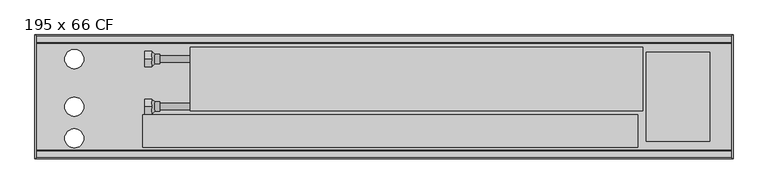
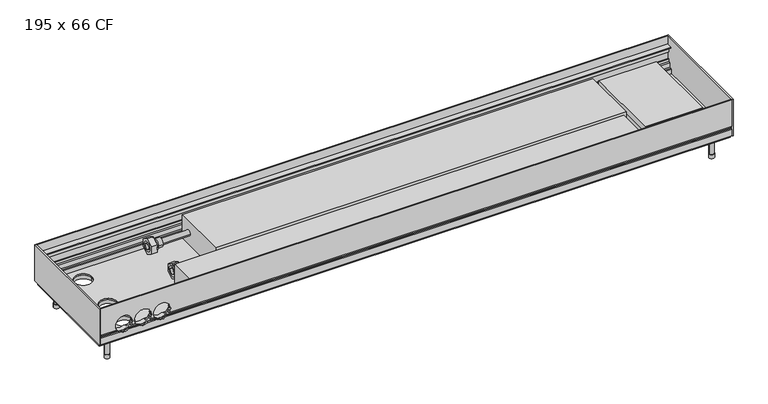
"""IFC4 building model written with IfcOpenShell, lengths in millimetres: proxy geometry, Mohlenhof_Внутрипольный конвектор_QSKM CF : 195 x 66 CF."""

from ifc_helpers import new_model, si_unit, point, frame, frame_2d, origin, place, context, project, spatial, polyline, circle_curve, ellipse_curve, trimmed, segment, composite_curve, outline, extrude, source, transform, mapped, element, save
from ifc_brep_helpers import plane_surface, cylinder_surface, revolved_surface, advanced_brep


def proxy_195_x_66_cf_8ee333b8(model_context):
    return source(origin(), model_context, "Body", "SolidModel", [
        advanced_brep(
        [(-366.0, -213.0, -41.0), (-366.0, -201.0, -41.0), (-366.0, -225.0, -41.0), (-353.5, -220.5, -41.0), (-353.5, -205.5, -41.0), (-353.5, -213.0, -41.0), (-361.0, -220.5, -41.0), (-361.0, -205.5, -41.0)],
        [
            (0, 1),
            (1, 2, circle_curve(frame((-366.0, -213.0, -41.0), z_axis=(-1.0, 0.0, 0.0), x_axis=(0.0, 1.0, 0.0)), 12.0)),
            (2, 0),
            (2, 1, circle_curve(frame((-366.0, -213.0, -41.0), z_axis=(-1.0, 0.0, 0.0), x_axis=(0.0, 1.0, 0.0)), 12.0)),
            (3, 4, circle_curve(frame((-353.5, -213.0, -41.0), z_axis=(1.0, 0.0, 0.0), x_axis=(0.0, 1.0, 0.0)), 7.5)),
            (4, 5),
            (5, 3),
            (4, 3, circle_curve(frame((-353.5, -213.0, -41.0), z_axis=(1.0, 0.0, 0.0), x_axis=(0.0, 1.0, 0.0)), 7.5)),
            (6, 7, circle_curve(frame((-361.0, -213.0, -41.0), z_axis=(1.0, 0.0, 0.0), x_axis=(0.0, 1.0, 0.0)), 7.5)),
            (7, 4),
            (3, 6),
            (7, 6, circle_curve(frame((-361.0, -213.0, -41.0), z_axis=(1.0, 0.0, 0.0), x_axis=(0.0, 1.0, 0.0)), 7.5)),
            (1, 7),
            (6, 2),
        ],
        [
            plane_surface(frame((-366.0, -213.0, -41.0), z_axis=(-1.0, 0.0, 0.0), x_axis=(0.0, 1.0, 0.0))),
            plane_surface(frame((-353.5, -213.0, -41.0), z_axis=(1.0, 0.0, 0.0), x_axis=(0.0, 1.0, 0.0))),
            cylinder_surface(frame((-366.0, -213.0, -41.0), z_axis=(-1.0, 0.0, 0.0), x_axis=(0.0, 1.0, 0.0)), 7.5),
            revolved_surface(polyline([(-361.0, -205.5, -41.0), (-366.0, -201.0, -41.0)]), (-366.0, -213.0, -41.0), (-1.0, 0.0, 0.0)),
        ],
        [
            (0, [[1, 2, 3]]),
            (0, [[-3, 4, -1]]),
            (1, [[5, 6, 7]]),
            (1, [[8, -7, -6]]),
            (2, [[9, 10, -5, 11]]),
            (2, [[12, -11, -8, -10]]),
            (3, [[-2, 13, -9, 14]]),
            (3, [[-4, -14, -12, -13]]),
        ],
    ),
        extrude(outline(polyline([(-213.0, -27.1435935), (-201.0, -34.0717968), (-201.0, -47.9282032), (-213.0, -54.8564065), (-225.0, -47.9282032), (-225.0, -34.0717968), (-213.0, -27.1435935)]), holes=[composite_curve([segment(trimmed(circle_curve(frame_2d((-213.0, -41.0)), 8.5), [point((-204.5, -41.0))], [point((-221.5, -41.0))], True, "CARTESIAN"), True, "CONTINUOUS"), segment(trimmed(circle_curve(frame_2d((-213.0, -41.0)), 8.5), [point((-221.5, -41.0))], [point((-204.5, -41.0))], True, "CARTESIAN"), True, "CONTINUOUS")], self_intersect=False)]), frame((-377.0, 0.0, 0.0), z_axis=(1.0, 0.0, 0.0), x_axis=(0.0, 1.0, 0.0)), (0.0, 0.0, 1.0), 11.0),
        advanced_brep(
        [(-366.0, -138.0, -41.0), (-366.0, -126.0, -41.0), (-366.0, -150.0, -41.0), (-353.5, -145.5, -41.0), (-353.5, -130.5, -41.0), (-353.5, -138.0, -41.0), (-361.0, -145.5, -41.0), (-361.0, -130.5, -41.0)],
        [
            (0, 1),
            (1, 2, circle_curve(frame((-366.0, -138.0, -41.0), z_axis=(-1.0, 0.0, 0.0), x_axis=(0.0, 1.0, 0.0)), 12.0)),
            (2, 0),
            (2, 1, circle_curve(frame((-366.0, -138.0, -41.0), z_axis=(-1.0, 0.0, 0.0), x_axis=(0.0, 1.0, 0.0)), 12.0)),
            (3, 4, circle_curve(frame((-353.5, -138.0, -41.0), z_axis=(1.0, 0.0, 0.0), x_axis=(0.0, 1.0, 0.0)), 7.5)),
            (4, 5),
            (5, 3),
            (4, 3, circle_curve(frame((-353.5, -138.0, -41.0), z_axis=(1.0, 0.0, 0.0), x_axis=(0.0, 1.0, 0.0)), 7.5)),
            (6, 7, circle_curve(frame((-361.0, -138.0, -41.0), z_axis=(1.0, 0.0, 0.0), x_axis=(0.0, 1.0, 0.0)), 7.5)),
            (7, 4),
            (3, 6),
            (7, 6, circle_curve(frame((-361.0, -138.0, -41.0), z_axis=(1.0, 0.0, 0.0), x_axis=(0.0, 1.0, 0.0)), 7.5)),
            (1, 7),
            (6, 2),
        ],
        [
            plane_surface(frame((-366.0, -138.0, -41.0), z_axis=(-1.0, 0.0, 0.0), x_axis=(0.0, 1.0, 0.0))),
            plane_surface(frame((-353.5, -138.0, -41.0), z_axis=(1.0, 0.0, 0.0), x_axis=(0.0, 1.0, 0.0))),
            cylinder_surface(frame((-366.0, -138.0, -41.0), z_axis=(-1.0, 0.0, 0.0), x_axis=(0.0, 1.0, 0.0)), 7.5),
            revolved_surface(polyline([(-361.0, -130.5, -41.0), (-366.0, -126.0, -41.0)]), (-366.0, -138.0, -41.0), (-1.0, 0.0, 0.0)),
        ],
        [
            (0, [[1, 2, 3]]),
            (0, [[-3, 4, -1]]),
            (1, [[5, 6, 7]]),
            (1, [[8, -7, -6]]),
            (2, [[9, 10, -5, 11]]),
            (2, [[12, -11, -8, -10]]),
            (3, [[-2, 13, -9, 14]]),
            (3, [[-4, -14, -12, -13]]),
        ],
    ),
        extrude(outline(polyline([(-138.0, -27.1435935), (-126.0, -34.0717968), (-126.0, -47.9282032), (-138.0, -54.8564065), (-150.0, -47.9282032), (-150.0, -34.0717968), (-138.0, -27.1435935)]), holes=[composite_curve([segment(trimmed(circle_curve(frame_2d((-138.0, -41.0)), 8.5), [point((-129.5, -41.0))], [point((-146.5, -41.0))], True, "CARTESIAN"), True, "CONTINUOUS"), segment(trimmed(circle_curve(frame_2d((-138.0, -41.0)), 8.5), [point((-146.5, -41.0))], [point((-129.5, -41.0))], True, "CARTESIAN"), True, "CONTINUOUS")], self_intersect=False)]), frame((-377.0, 0.0, 0.0), z_axis=(1.0, 0.0, 0.0), x_axis=(0.0, 1.0, 0.0)), (0.0, 0.0, 1.0), 11.0),
        extrude(outline(composite_curve([segment(trimmed(circle_curve(frame_2d((-525.0, -273.5)), 4.5), [point((-529.5, -273.5))], [point((-520.5, -273.5))], False, "CARTESIAN"), True, "CONTINUOUS"), segment(trimmed(circle_curve(frame_2d((-525.0, -273.5)), 4.5), [point((-520.5, -273.5))], [point((-529.5, -273.5))], False, "CARTESIAN"), True, "CONTINUOUS")], self_intersect=False)), frame((0.0, 0.0, -110.0), z_axis=(0.0, 0.0, 1.0), x_axis=(1.0, 0.0, 0.0)), (0.0, 0.0, 1.0), 7.0),
        extrude(outline(composite_curve([segment(trimmed(circle_curve(frame_2d((-525.0, -273.5)), 4.0), [point((-529.0, -273.5))], [point((-521.0, -273.5))], False, "CARTESIAN"), True, "CONTINUOUS"), segment(trimmed(circle_curve(frame_2d((-525.0, -273.5)), 4.0), [point((-521.0, -273.5))], [point((-529.0, -273.5))], False, "CARTESIAN"), True, "CONTINUOUS")], self_intersect=False)), frame((0.0, 0.0, -103.0), z_axis=(0.0, 0.0, 1.0), x_axis=(1.0, 0.0, 0.0)), (0.0, 0.0, 1.0), 32.5),
        extrude(outline(composite_curve([segment(trimmed(circle_curve(frame_2d((-525.0, -121.5)), 4.5), [point((-529.5, -121.5))], [point((-520.5, -121.5))], False, "CARTESIAN"), True, "CONTINUOUS"), segment(trimmed(circle_curve(frame_2d((-525.0, -121.5)), 4.5), [point((-520.5, -121.5))], [point((-529.5, -121.5))], False, "CARTESIAN"), True, "CONTINUOUS")], self_intersect=False)), frame((0.0, 0.0, -110.0), z_axis=(0.0, 0.0, 1.0), x_axis=(1.0, 0.0, 0.0)), (0.0, 0.0, 1.0), 7.0),
        extrude(outline(composite_curve([segment(trimmed(circle_curve(frame_2d((-525.0, -121.5)), 4.0), [point((-529.0, -121.5))], [point((-521.0, -121.5))], False, "CARTESIAN"), True, "CONTINUOUS"), segment(trimmed(circle_curve(frame_2d((-525.0, -121.5)), 4.0), [point((-521.0, -121.5))], [point((-529.0, -121.5))], False, "CARTESIAN"), True, "CONTINUOUS")], self_intersect=False)), frame((0.0, 0.0, -103.0), z_axis=(0.0, 0.0, 1.0), x_axis=(1.0, 0.0, 0.0)), (0.0, 0.0, 1.0), 32.5),
        extrude(outline(composite_curve([segment(trimmed(circle_curve(frame_2d((525.0, -273.5)), 4.5), [point((520.5, -273.5))], [point((529.5, -273.5))], False, "CARTESIAN"), True, "CONTINUOUS"), segment(trimmed(circle_curve(frame_2d((525.0, -273.5)), 4.5), [point((529.5, -273.5))], [point((520.5, -273.5))], False, "CARTESIAN"), True, "CONTINUOUS")], self_intersect=False)), frame((0.0, 0.0, -110.0), z_axis=(0.0, 0.0, 1.0), x_axis=(1.0, 0.0, 0.0)), (0.0, 0.0, 1.0), 7.0),
        extrude(outline(composite_curve([segment(trimmed(circle_curve(frame_2d((525.0, -273.5)), 4.0), [point((521.0, -273.5))], [point((529.0, -273.5))], False, "CARTESIAN"), True, "CONTINUOUS"), segment(trimmed(circle_curve(frame_2d((525.0, -273.5)), 4.0), [point((529.0, -273.5))], [point((521.0, -273.5))], False, "CARTESIAN"), True, "CONTINUOUS")], self_intersect=False)), frame((0.0, 0.0, -103.0), z_axis=(0.0, 0.0, 1.0), x_axis=(1.0, 0.0, 0.0)), (0.0, 0.0, 1.0), 32.5),
        extrude(outline(composite_curve([segment(trimmed(circle_curve(frame_2d((525.0, -121.5)), 4.5), [point((520.5, -121.5))], [point((529.5, -121.5))], False, "CARTESIAN"), True, "CONTINUOUS"), segment(trimmed(circle_curve(frame_2d((525.0, -121.5)), 4.5), [point((529.5, -121.5))], [point((520.5, -121.5))], False, "CARTESIAN"), True, "CONTINUOUS")], self_intersect=False)), frame((0.0, 0.0, -110.0), z_axis=(0.0, 0.0, 1.0), x_axis=(1.0, 0.0, 0.0)), (0.0, 0.0, 1.0), 7.0),
        extrude(outline(composite_curve([segment(trimmed(circle_curve(frame_2d((525.0, -121.5)), 4.0), [point((521.0, -121.5))], [point((529.0, -121.5))], False, "CARTESIAN"), True, "CONTINUOUS"), segment(trimmed(circle_curve(frame_2d((525.0, -121.5)), 4.0), [point((529.0, -121.5))], [point((521.0, -121.5))], False, "CARTESIAN"), True, "CONTINUOUS")], self_intersect=False)), frame((0.0, 0.0, -103.0), z_axis=(0.0, 0.0, 1.0), x_axis=(1.0, 0.0, 0.0)), (0.0, 0.0, 1.0), 32.5),
        extrude(outline(polyline([(-62.5, 501.0), (-44.5, 501.0), (-44.5, 510.0), (-29.5, 510.0), (-29.5, 513.0), (-19.5, 513.0), (-19.5, 413.0), (-29.5, 413.0), (-29.5, 416.0), (-62.5, 416.0), (-62.5, 501.0)])), frame((0.0, -267.5, 0.0), z_axis=(0.0, 1.0, 0.0), x_axis=(0.0, 0.0, 1.0)), (0.0, 0.0, 1.0), 140.0),
        extrude(outline(polyline([(400.0, -225.87), (400.0, -277.18), (-380.0, -277.18), (-380.0, -225.87), (400.0, -225.87)])), frame((0.0, 0.0, -62.5), z_axis=(0.0, 0.0, 1.0), x_axis=(1.0, 0.0, 0.0)), (0.0, 0.0, 1.0), 43.62),
        extrude(outline(composite_curve([segment(trimmed(circle_curve(frame_2d((-213.0, -41.0)), 5.0), [point((-218.0, -41.0))], [point((-208.0, -41.0))], False, "CARTESIAN"), True, "CONTINUOUS"), segment(trimmed(circle_curve(frame_2d((-213.0, -41.0)), 5.0), [point((-208.0, -41.0))], [point((-218.0, -41.0))], False, "CARTESIAN"), True, "CONTINUOUS")], self_intersect=False)), frame((-377.0, 0.0, 0.0), z_axis=(1.0, 0.0, 0.0), x_axis=(0.0, 1.0, 0.0)), (0.0, 0.0, 1.0), 72.0),
        extrude(outline(composite_curve([segment(trimmed(circle_curve(frame_2d((-138.0, -41.0)), 5.0), [point((-143.0, -41.0))], [point((-133.0, -41.0))], False, "CARTESIAN"), True, "CONTINUOUS"), segment(trimmed(circle_curve(frame_2d((-138.0, -41.0)), 5.0), [point((-133.0, -41.0))], [point((-143.0, -41.0))], False, "CARTESIAN"), True, "CONTINUOUS")], self_intersect=False)), frame((-377.0, 0.0, 0.0), z_axis=(1.0, 0.0, 0.0), x_axis=(0.0, 1.0, 0.0)), (0.0, 0.0, 1.0), 72.0),
        advanced_brep(
        [(548.0, -295.0, -48.5473602), (548.0, -293.5, -49.2468216), (548.0, -292.5, -49.2468216), (548.0, -292.5, -46.0008038), (548.0, -290.0, -46.0008038), (548.0, -290.0, -56.5008038), (548.0, -292.5, -56.5008038), (548.0, -292.5, -53.2468216), (548.0, -293.5, -53.2468216), (548.0, -295.0, -53.9462831), (548.0, -295.0, -66.5), (548.0, -291.0, -66.5), (548.0, -291.0, -65.2), (548.0, -293.0, -65.2), (548.0, -293.0, -62.5), (548.0, -282.0, -62.5), (548.0, -282.0, -54.9172677), (548.0, -283.4172677, -53.5), (548.0, -287.0, -53.5), (548.0, -287.0, -45.91), (548.0, -289.0, -43.91), (548.0, -289.0, -39.5), (548.0, -290.0, -39.5), (548.0, -290.0, -43.5), (548.0, -292.4956439, -43.5), (548.0, -292.4956439, -23.0), (548.0, -290.0, -23.0), (548.0, -290.0, -27.0), (548.0, -289.0, -27.0), (548.0, -289.0, -17.0), (548.0, -283.3956439, -17.0), (548.0, -283.3956439, -15.0), (548.0, -293.4, -15.0), (548.0, -293.4, 0.0), (548.0, -295.0, 0.0), (-548.0, -295.0, -48.5473602), (-548.0, -295.0, 0.0), (-548.0, -293.4, 0.0), (-548.0, -293.4, -15.0), (-548.0, -283.3956439, -15.0), (-548.0, -283.3956439, -17.0), (-548.0, -289.0, -17.0), (-548.0, -289.0, -27.0), (-548.0, -290.0, -27.0), (-548.0, -290.0, -23.0), (-548.0, -292.4956439, -23.0), (-548.0, -292.4956439, -43.5), (-548.0, -290.0, -43.5), (-548.0, -290.0, -39.5), (-548.0, -289.0, -39.5), (-548.0, -289.0, -43.91), (-548.0, -287.0, -45.91), (-548.0, -287.0, -53.5), (-548.0, -283.4172677, -53.5), (-548.0, -282.0, -54.9172677), (-548.0, -282.0, -62.5), (-548.0, -293.0, -62.5), (-548.0, -293.0, -65.2), (-548.0, -291.0, -65.2), (-548.0, -291.0, -66.5), (-548.0, -295.0, -66.5), (-548.0, -295.0, -53.9462831), (-548.0, -293.5, -53.2468216), (-548.0, -292.5, -53.2468216), (-548.0, -292.5, -56.5008038), (-548.0, -290.0, -56.5008038), (-548.0, -290.0, -46.0008038), (-548.0, -292.5, -46.0008038), (-548.0, -292.5, -49.2468216), (-548.0, -293.5, -49.2468216), (-428.7585985, -295.0, -48.5473602), (-429.155283, -293.5, -49.2468216), (-520.844717, -293.5, -49.2468216), (-521.2414015, -295.0, -48.5473602), (-488.2414015, -295.0, -48.5473602), (-494.7585985, -295.0, -48.5473602), (-495.155283, -293.5, -49.2468216), (-487.844717, -293.5, -49.2468216), (-455.2414015, -295.0, -48.5473602), (-461.7585985, -295.0, -48.5473602), (-462.155283, -293.5, -49.2468216), (-454.844717, -293.5, -49.2468216), (-429.155283, -292.5, -49.2468216), (-520.844717, -292.5, -49.2468216), (-495.155283, -292.5, -49.2468216), (-487.844717, -292.5, -49.2468216), (-462.155283, -292.5, -49.2468216), (-454.844717, -292.5, -49.2468216), (-427.6911648, -292.5, -46.0008038), (-522.3088352, -292.5, -46.0008038), (-493.6911648, -292.5, -46.0008038), (-489.3088352, -292.5, -46.0008038), (-460.6911648, -292.5, -46.0008038), (-456.3088352, -292.5, -46.0008038), (-427.6911648, -290.0, -46.0008038), (-522.3088352, -290.0, -46.0008038), (-493.6911648, -290.0, -46.0008038), (-489.3088352, -290.0, -46.0008038), (-460.6911648, -290.0, -46.0008038), (-456.3088352, -290.0, -46.0008038), (-517.328032, -292.5, -53.2468216), (-498.671968, -292.5, -53.2468216), (-484.328032, -292.5, -53.2468216), (-465.671968, -292.5, -53.2468216), (-451.328032, -292.5, -53.2468216), (-432.671968, -292.5, -53.2468216), (-432.671968, -293.5, -53.2468216), (-517.328032, -293.5, -53.2468216), (-498.671968, -293.5, -53.2468216), (-484.328032, -293.5, -53.2468216), (-465.671968, -293.5, -53.2468216), (-451.328032, -293.5, -53.2468216), (-433.6280208, -295.0, -53.9462831), (-516.3719792, -295.0, -53.9462831), (-499.6280208, -295.0, -53.9462831), (-483.3719792, -295.0, -53.9462831), (-466.6280208, -295.0, -53.9462831), (-450.3719792, -295.0, -53.9462831), (-514.7064841, -282.0, -54.9172677), (-501.2935159, -282.0, -54.9172677), (-481.7064841, -282.0, -54.9172677), (-468.2935159, -282.0, -54.9172677), (-448.7064841, -282.0, -54.9172677), (-435.2935159, -282.0, -54.9172677), (-433.0, -283.4172677, -53.5), (-517.0, -283.4172677, -53.5), (-499.0, -283.4172677, -53.5), (-484.0, -283.4172677, -53.5), (-466.0, -283.4172677, -53.5), (-451.0, -283.4172677, -53.5), (-433.0, -287.0, -53.5), (-517.0, -287.0, -53.5), (-499.0, -287.0, -53.5), (-484.0, -287.0, -53.5), (-466.0, -287.0, -53.5), (-451.0, -287.0, -53.5), (-427.6629187, -287.0, -45.91), (-522.3370813, -287.0, -45.91), (-493.6629187, -287.0, -45.91), (-489.3370813, -287.0, -45.91), (-460.6629187, -287.0, -45.91), (-456.3370813, -287.0, -45.91), (-427.1948691, -289.0, -43.91), (-522.8051309, -289.0, -43.91), (-493.1948691, -289.0, -43.91), (-489.8051309, -289.0, -43.91), (-460.1948691, -289.0, -43.91), (-456.8051309, -289.0, -43.91), (-427.0, -289.0, -41.5), (-427.1339313, -289.0, -39.5), (-522.8660687, -289.0, -39.5), (-523.0, -289.0, -41.5), (-493.0, -289.0, -41.5), (-493.1339313, -289.0, -39.5), (-489.8660687, -289.0, -39.5), (-490.0, -289.0, -41.5), (-460.0, -289.0, -41.5), (-460.1339313, -289.0, -39.5), (-456.8660687, -289.0, -39.5), (-457.0, -289.0, -41.5), (-427.1339313, -290.0, -39.5), (-522.8660687, -290.0, -39.5), (-493.1339313, -290.0, -39.5), (-489.8660687, -290.0, -39.5), (-460.1339313, -290.0, -39.5), (-456.8660687, -290.0, -39.5), (-427.0, -290.0, -41.5), (-427.1339313, -290.0, -43.5), (-522.8660687, -290.0, -43.5), (-523.0, -290.0, -41.5), (-493.0, -290.0, -41.5), (-493.1339313, -290.0, -43.5), (-489.8660687, -290.0, -43.5), (-490.0, -290.0, -41.5), (-460.0, -290.0, -41.5), (-460.1339313, -290.0, -43.5), (-456.8660687, -290.0, -43.5), (-457.0, -290.0, -41.5), (-427.1339313, -292.4956439, -43.5), (-522.8660687, -292.4956439, -43.5), (-493.1339313, -292.4956439, -43.5), (-489.8660687, -292.4956439, -43.5), (-460.1339313, -292.4956439, -43.5), (-456.8660687, -292.4956439, -43.5), (-427.0, -292.4956439, -41.5), (-457.0, -292.4956439, -41.5), (-460.0, -292.4956439, -41.5), (-490.0, -292.4956439, -41.5), (-493.0, -292.4956439, -41.5), (-523.0, -292.4956439, -41.5), (-511.8405729, -290.0, -27.0), (-504.1594271, -290.0, -27.0), (-478.8405729, -290.0, -27.0), (-471.1594271, -290.0, -27.0), (-445.8405729, -290.0, -27.0), (-438.1594271, -290.0, -27.0), (-438.1594271, -289.0, -27.0), (-511.8405729, -289.0, -27.0), (-504.1594271, -289.0, -27.0), (-478.8405729, -289.0, -27.0), (-471.1594271, -289.0, -27.0), (-445.8405729, -289.0, -27.0), (-523.0, -295.0, -41.5), (-493.0, -295.0, -41.5), (-490.0, -295.0, -41.5), (-460.0, -295.0, -41.5), (-457.0, -295.0, -41.5), (-427.0, -295.0, -41.5)],
        [
            (0, 1),
            (1, 2),
            (2, 3),
            (3, 4),
            (4, 5),
            (5, 6),
            (6, 7),
            (7, 8),
            (8, 9),
            (9, 10),
            (10, 11),
            (11, 12),
            (12, 13),
            (13, 14),
            (14, 15),
            (15, 16),
            (16, 17),
            (17, 18),
            (18, 19),
            (19, 20),
            (20, 21),
            (21, 22),
            (22, 23),
            (23, 24),
            (24, 25),
            (25, 26),
            (26, 27),
            (27, 28),
            (28, 29),
            (29, 30),
            (30, 31),
            (31, 32),
            (32, 33),
            (33, 34),
            (34, 0),
            (35, 36),
            (36, 37),
            (37, 38),
            (38, 39),
            (39, 40),
            (40, 41),
            (41, 42),
            (42, 43),
            (43, 44),
            (44, 45),
            (45, 46),
            (46, 47),
            (47, 48),
            (48, 49),
            (49, 50),
            (50, 51),
            (51, 52),
            (52, 53),
            (53, 54),
            (54, 55),
            (55, 56),
            (56, 57),
            (57, 58),
            (58, 59),
            (59, 60),
            (60, 61),
            (61, 62),
            (62, 63),
            (63, 64),
            (64, 65),
            (65, 66),
            (66, 67),
            (67, 68),
            (68, 69),
            (69, 35),
            (0, 70),
            (70, 71, ellipse_curve(frame((-442.0, -310.1131126, -41.5), z_axis=(0.0, 0.42261826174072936, 0.9063077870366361), x_axis=(0.0, -0.906307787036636, 0.4226182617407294)), 35.4930237, 15.0)),
            (71, 1),
            (69, 72),
            (72, 73, ellipse_curve(frame((-508.0, -310.1131126, -41.5), z_axis=(0.0, 0.42261826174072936, 0.9063077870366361), x_axis=(0.0, -0.906307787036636, 0.4226182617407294)), 35.4930237, 15.0)),
            (73, 35),
            (74, 75),
            (75, 76, ellipse_curve(frame((-508.0, -310.1131126, -41.5), z_axis=(0.0, 0.42261826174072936, 0.9063077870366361), x_axis=(0.0, -0.906307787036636, 0.4226182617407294)), 35.4930237, 15.0)),
            (76, 77),
            (77, 74, ellipse_curve(frame((-475.0, -310.1131126, -41.5), z_axis=(0.0, 0.42261826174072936, 0.9063077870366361), x_axis=(0.0, -0.906307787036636, 0.4226182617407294)), 35.4930237, 15.0)),
            (78, 79),
            (79, 80, ellipse_curve(frame((-475.0, -310.1131126, -41.5), z_axis=(0.0, 0.42261826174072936, 0.9063077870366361), x_axis=(0.0, -0.906307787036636, 0.4226182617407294)), 35.4930237, 15.0)),
            (80, 81),
            (81, 78, ellipse_curve(frame((-442.0, -310.1131126, -41.5), z_axis=(0.0, 0.42261826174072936, 0.9063077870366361), x_axis=(0.0, -0.906307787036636, 0.4226182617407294)), 35.4930237, 15.0)),
            (71, 82),
            (82, 2),
            (68, 83),
            (83, 72),
            (76, 84),
            (84, 85),
            (85, 77),
            (80, 86),
            (86, 87),
            (87, 81),
            (82, 88, circle_curve(frame((-442.0, -292.5, -41.5), z_axis=(0.0, -1.0, 0.0), x_axis=(1.0, 0.0, 0.0)), 15.0)),
            (88, 3),
            (67, 89),
            (89, 83, circle_curve(frame((-508.0, -292.5, -41.5), z_axis=(0.0, -1.0, 0.0), x_axis=(1.0, 0.0, 0.0)), 15.0)),
            (84, 90, circle_curve(frame((-508.0, -292.5, -41.5), z_axis=(0.0, -1.0, 0.0), x_axis=(1.0, 0.0, 0.0)), 15.0)),
            (90, 91),
            (91, 85, circle_curve(frame((-475.0, -292.5, -41.5), z_axis=(0.0, -1.0, 0.0), x_axis=(1.0, 0.0, 0.0)), 15.0)),
            (86, 92, circle_curve(frame((-475.0, -292.5, -41.5), z_axis=(0.0, -1.0, 0.0), x_axis=(1.0, 0.0, 0.0)), 15.0)),
            (92, 93),
            (93, 87, circle_curve(frame((-442.0, -292.5, -41.5), z_axis=(0.0, -1.0, 0.0), x_axis=(1.0, 0.0, 0.0)), 15.0)),
            (88, 94),
            (94, 4),
            (66, 95),
            (95, 89),
            (90, 96),
            (96, 97),
            (97, 91),
            (92, 98),
            (98, 99),
            (99, 93),
            (94, 99, circle_curve(frame((-442.0, -290.0, -41.5), z_axis=(0.0, 1.0, 0.0), x_axis=(1.0, 0.0, 0.0)), 15.0)),
            (98, 97, circle_curve(frame((-475.0, -290.0, -41.5), z_axis=(0.0, 1.0, 0.0), x_axis=(1.0, 0.0, 0.0)), 15.0)),
            (96, 95, circle_curve(frame((-508.0, -290.0, -41.5), z_axis=(0.0, 1.0, 0.0), x_axis=(1.0, 0.0, 0.0)), 15.0)),
            (65, 5),
            (64, 6),
            (63, 100),
            (100, 101, circle_curve(frame((-508.0, -292.5, -41.5), z_axis=(0.0, -1.0, 0.0), x_axis=(1.0, 0.0, 0.0)), 15.0)),
            (101, 102),
            (102, 103, circle_curve(frame((-475.0, -292.5, -41.5), z_axis=(0.0, -1.0, 0.0), x_axis=(1.0, 0.0, 0.0)), 15.0)),
            (103, 104),
            (104, 105, circle_curve(frame((-442.0, -292.5, -41.5), z_axis=(0.0, -1.0, 0.0), x_axis=(1.0, 0.0, 0.0)), 15.0)),
            (105, 7),
            (105, 106),
            (106, 8),
            (62, 107),
            (107, 100),
            (101, 108),
            (108, 109),
            (109, 102),
            (103, 110),
            (110, 111),
            (111, 104),
            (106, 112, ellipse_curve(frame((-442.0, -268.3088597, -41.5), z_axis=(0.0, 0.4226182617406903, -0.9063077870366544), x_axis=(0.0, -0.9063077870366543, -0.42261826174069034)), 35.4930237, 15.0)),
            (112, 9),
            (61, 113),
            (113, 107, ellipse_curve(frame((-508.0, -268.3088597, -41.5), z_axis=(0.0, 0.4226182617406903, -0.9063077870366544), x_axis=(0.0, -0.9063077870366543, -0.42261826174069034)), 35.4930237, 15.0)),
            (108, 114, ellipse_curve(frame((-508.0, -268.3088597, -41.5), z_axis=(0.0, 0.4226182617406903, -0.9063077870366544), x_axis=(0.0, -0.9063077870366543, -0.42261826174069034)), 35.4930237, 15.0)),
            (114, 115),
            (115, 109, ellipse_curve(frame((-475.0, -268.3088597, -41.5), z_axis=(0.0, 0.4226182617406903, -0.9063077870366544), x_axis=(0.0, -0.9063077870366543, -0.42261826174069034)), 35.4930237, 15.0)),
            (110, 116, ellipse_curve(frame((-475.0, -268.3088597, -41.5), z_axis=(0.0, 0.4226182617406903, -0.9063077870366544), x_axis=(0.0, -0.9063077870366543, -0.42261826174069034)), 35.4930237, 15.0)),
            (116, 117),
            (117, 111, ellipse_curve(frame((-442.0, -268.3088597, -41.5), z_axis=(0.0, 0.4226182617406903, -0.9063077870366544), x_axis=(0.0, -0.9063077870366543, -0.42261826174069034)), 35.4930237, 15.0)),
            (112, 117, circle_curve(frame((-442.0, -295.0, -41.5), z_axis=(0.0, 1.0, 0.0), x_axis=(1.0, 0.0, 0.0)), 15.0)),
            (116, 115, circle_curve(frame((-475.0, -295.0, -41.5), z_axis=(0.0, 1.0, 0.0), x_axis=(1.0, 0.0, 0.0)), 15.0)),
            (114, 113, circle_curve(frame((-508.0, -295.0, -41.5), z_axis=(0.0, 1.0, 0.0), x_axis=(1.0, 0.0, 0.0)), 15.0)),
            (60, 10),
            (59, 11),
            (58, 12),
            (57, 13),
            (56, 14),
            (55, 15),
            (54, 118),
            (118, 119, circle_curve(frame((-508.0, -282.0, -41.5), z_axis=(0.0, -1.0, 0.0), x_axis=(1.0, 0.0, 0.0)), 15.0)),
            (119, 120),
            (120, 121, circle_curve(frame((-475.0, -282.0, -41.5), z_axis=(0.0, -1.0, 0.0), x_axis=(1.0, 0.0, 0.0)), 15.0)),
            (121, 122),
            (122, 123, circle_curve(frame((-442.0, -282.0, -41.5), z_axis=(0.0, -1.0, 0.0), x_axis=(1.0, 0.0, 0.0)), 15.0)),
            (123, 16),
            (123, 124, ellipse_curve(frame((-442.0, -295.4172677, -41.5), z_axis=(0.0, -0.7071067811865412, -0.7071067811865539), x_axis=(0.0, -0.7071067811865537, 0.7071067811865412)), 21.2132034, 15.0)),
            (124, 17),
            (53, 125),
            (125, 118, ellipse_curve(frame((-508.0, -295.4172677, -41.5), z_axis=(0.0, -0.7071067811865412, -0.7071067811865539), x_axis=(0.0, -0.7071067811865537, 0.7071067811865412)), 21.2132034, 15.0)),
            (119, 126, ellipse_curve(frame((-508.0, -295.4172677, -41.5), z_axis=(0.0, -0.7071067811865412, -0.7071067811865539), x_axis=(0.0, -0.7071067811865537, 0.7071067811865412)), 21.2132034, 15.0)),
            (126, 127),
            (127, 120, ellipse_curve(frame((-475.0, -295.4172677, -41.5), z_axis=(0.0, -0.7071067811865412, -0.7071067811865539), x_axis=(0.0, -0.7071067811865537, 0.7071067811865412)), 21.2132034, 15.0)),
            (121, 128, ellipse_curve(frame((-475.0, -295.4172677, -41.5), z_axis=(0.0, -0.7071067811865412, -0.7071067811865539), x_axis=(0.0, -0.7071067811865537, 0.7071067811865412)), 21.2132034, 15.0)),
            (128, 129),
            (129, 122, ellipse_curve(frame((-442.0, -295.4172677, -41.5), z_axis=(0.0, -0.7071067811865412, -0.7071067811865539), x_axis=(0.0, -0.7071067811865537, 0.7071067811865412)), 21.2132034, 15.0)),
            (124, 130),
            (130, 18),
            (52, 131),
            (131, 125),
            (126, 132),
            (132, 133),
            (133, 127),
            (128, 134),
            (134, 135),
            (135, 129),
            (130, 136, circle_curve(frame((-442.0, -287.0, -41.5), z_axis=(0.0, -1.0, 0.0), x_axis=(1.0, 0.0, 0.0)), 15.0)),
            (136, 19),
            (51, 137),
            (137, 131, circle_curve(frame((-508.0, -287.0, -41.5), z_axis=(0.0, -1.0, 0.0), x_axis=(1.0, 0.0, 0.0)), 15.0)),
            (132, 138, circle_curve(frame((-508.0, -287.0, -41.5), z_axis=(0.0, -1.0, 0.0), x_axis=(1.0, 0.0, 0.0)), 15.0)),
            (138, 139),
            (139, 133, circle_curve(frame((-475.0, -287.0, -41.5), z_axis=(0.0, -1.0, 0.0), x_axis=(1.0, 0.0, 0.0)), 15.0)),
            (134, 140, circle_curve(frame((-475.0, -287.0, -41.5), z_axis=(0.0, -1.0, 0.0), x_axis=(1.0, 0.0, 0.0)), 15.0)),
            (140, 141),
            (141, 135, circle_curve(frame((-442.0, -287.0, -41.5), z_axis=(0.0, -1.0, 0.0), x_axis=(1.0, 0.0, 0.0)), 15.0)),
            (136, 142, ellipse_curve(frame((-442.0, -291.41, -41.5), z_axis=(0.0, -0.7071067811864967, -0.7071067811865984), x_axis=(0.0, -0.7071067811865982, 0.7071067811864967)), 21.2132034, 15.0)),
            (142, 20),
            (50, 143),
            (143, 137, ellipse_curve(frame((-508.0, -291.41, -41.5), z_axis=(0.0, -0.7071067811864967, -0.7071067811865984), x_axis=(0.0, -0.7071067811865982, 0.7071067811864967)), 21.2132034, 15.0)),
            (138, 144, ellipse_curve(frame((-508.0, -291.41, -41.5), z_axis=(0.0, -0.7071067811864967, -0.7071067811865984), x_axis=(0.0, -0.7071067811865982, 0.7071067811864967)), 21.2132034, 15.0)),
            (144, 145),
            (145, 139, ellipse_curve(frame((-475.0, -291.41, -41.5), z_axis=(0.0, -0.7071067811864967, -0.7071067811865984), x_axis=(0.0, -0.7071067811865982, 0.7071067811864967)), 21.2132034, 15.0)),
            (140, 146, ellipse_curve(frame((-475.0, -291.41, -41.5), z_axis=(0.0, -0.7071067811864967, -0.7071067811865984), x_axis=(0.0, -0.7071067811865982, 0.7071067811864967)), 21.2132034, 15.0)),
            (146, 147),
            (147, 141, ellipse_curve(frame((-442.0, -291.41, -41.5), z_axis=(0.0, -0.7071067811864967, -0.7071067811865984), x_axis=(0.0, -0.7071067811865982, 0.7071067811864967)), 21.2132034, 15.0)),
            (142, 148, circle_curve(frame((-442.0, -289.0, -41.5), z_axis=(0.0, -1.0, 0.0), x_axis=(1.0, 0.0, 0.0)), 15.0)),
            (148, 149, circle_curve(frame((-442.0, -289.0, -41.5), z_axis=(0.0, -1.0, 0.0), x_axis=(1.0, 0.0, 0.0)), 15.0)),
            (149, 21),
            (49, 150),
            (150, 151, circle_curve(frame((-508.0, -289.0, -41.5), z_axis=(0.0, -1.0, 0.0), x_axis=(1.0, 0.0, 0.0)), 15.0)),
            (151, 143, circle_curve(frame((-508.0, -289.0, -41.5), z_axis=(0.0, -1.0, 0.0), x_axis=(1.0, 0.0, 0.0)), 15.0)),
            (144, 152, circle_curve(frame((-508.0, -289.0, -41.5), z_axis=(0.0, -1.0, 0.0), x_axis=(1.0, 0.0, 0.0)), 15.0)),
            (152, 153, circle_curve(frame((-508.0, -289.0, -41.5), z_axis=(0.0, -1.0, 0.0), x_axis=(1.0, 0.0, 0.0)), 15.0)),
            (153, 154),
            (154, 155, circle_curve(frame((-475.0, -289.0, -41.5), z_axis=(0.0, -1.0, 0.0), x_axis=(1.0, 0.0, 0.0)), 15.0)),
            (155, 145, circle_curve(frame((-475.0, -289.0, -41.5), z_axis=(0.0, -1.0, 0.0), x_axis=(1.0, 0.0, 0.0)), 15.0)),
            (146, 156, circle_curve(frame((-475.0, -289.0, -41.5), z_axis=(0.0, -1.0, 0.0), x_axis=(1.0, 0.0, 0.0)), 15.0)),
            (156, 157, circle_curve(frame((-475.0, -289.0, -41.5), z_axis=(0.0, -1.0, 0.0), x_axis=(1.0, 0.0, 0.0)), 15.0)),
            (157, 158),
            (158, 159, circle_curve(frame((-442.0, -289.0, -41.5), z_axis=(0.0, -1.0, 0.0), x_axis=(1.0, 0.0, 0.0)), 15.0)),
            (159, 147, circle_curve(frame((-442.0, -289.0, -41.5), z_axis=(0.0, -1.0, 0.0), x_axis=(1.0, 0.0, 0.0)), 15.0)),
            (149, 160),
            (160, 22),
            (48, 161),
            (161, 150),
            (153, 162),
            (162, 163),
            (163, 154),
            (157, 164),
            (164, 165),
            (165, 158),
            (160, 166, circle_curve(frame((-442.0, -290.0, -41.5), z_axis=(0.0, 1.0, 0.0), x_axis=(1.0, 0.0, 0.0)), 15.0)),
            (166, 167, circle_curve(frame((-442.0, -290.0, -41.5), z_axis=(0.0, 1.0, 0.0), x_axis=(1.0, 0.0, 0.0)), 15.0)),
            (167, 23),
            (47, 168),
            (168, 169, circle_curve(frame((-508.0, -290.0, -41.5), z_axis=(0.0, 1.0, 0.0), x_axis=(1.0, 0.0, 0.0)), 15.0)),
            (169, 161, circle_curve(frame((-508.0, -290.0, -41.5), z_axis=(0.0, 1.0, 0.0), x_axis=(1.0, 0.0, 0.0)), 15.0)),
            (162, 170, circle_curve(frame((-508.0, -290.0, -41.5), z_axis=(0.0, 1.0, 0.0), x_axis=(1.0, 0.0, 0.0)), 15.0)),
            (170, 171, circle_curve(frame((-508.0, -290.0, -41.5), z_axis=(0.0, 1.0, 0.0), x_axis=(1.0, 0.0, 0.0)), 15.0)),
            (171, 172),
            (172, 173, circle_curve(frame((-475.0, -290.0, -41.5), z_axis=(0.0, 1.0, 0.0), x_axis=(1.0, 0.0, 0.0)), 15.0)),
            (173, 163, circle_curve(frame((-475.0, -290.0, -41.5), z_axis=(0.0, 1.0, 0.0), x_axis=(1.0, 0.0, 0.0)), 15.0)),
            (164, 174, circle_curve(frame((-475.0, -290.0, -41.5), z_axis=(0.0, 1.0, 0.0), x_axis=(1.0, 0.0, 0.0)), 15.0)),
            (174, 175, circle_curve(frame((-475.0, -290.0, -41.5), z_axis=(0.0, 1.0, 0.0), x_axis=(1.0, 0.0, 0.0)), 15.0)),
            (175, 176),
            (176, 177, circle_curve(frame((-442.0, -290.0, -41.5), z_axis=(0.0, 1.0, 0.0), x_axis=(1.0, 0.0, 0.0)), 15.0)),
            (177, 165, circle_curve(frame((-442.0, -290.0, -41.5), z_axis=(0.0, 1.0, 0.0), x_axis=(1.0, 0.0, 0.0)), 15.0)),
            (167, 178),
            (178, 24),
            (46, 179),
            (179, 168),
            (171, 180),
            (180, 181),
            (181, 172),
            (175, 182),
            (182, 183),
            (183, 176),
            (178, 184, circle_curve(frame((-442.0, -292.4956439, -41.5), z_axis=(0.0, -1.0, 0.0), x_axis=(1.0, 0.0, 0.0)), 15.0)),
            (184, 185, circle_curve(frame((-442.0, -292.4956439, -41.5), z_axis=(0.0, -1.0, 0.0), x_axis=(1.0, 0.0, 0.0)), 15.0)),
            (185, 183, circle_curve(frame((-442.0, -292.4956439, -41.5), z_axis=(0.0, -1.0, 0.0), x_axis=(1.0, 0.0, 0.0)), 15.0)),
            (182, 186, circle_curve(frame((-475.0, -292.4956439, -41.5), z_axis=(0.0, -1.0, 0.0), x_axis=(1.0, 0.0, 0.0)), 15.0)),
            (186, 187, circle_curve(frame((-475.0, -292.4956439, -41.5), z_axis=(0.0, -1.0, 0.0), x_axis=(1.0, 0.0, 0.0)), 15.0)),
            (187, 181, circle_curve(frame((-475.0, -292.4956439, -41.5), z_axis=(0.0, -1.0, 0.0), x_axis=(1.0, 0.0, 0.0)), 15.0)),
            (180, 188, circle_curve(frame((-508.0, -292.4956439, -41.5), z_axis=(0.0, -1.0, 0.0), x_axis=(1.0, 0.0, 0.0)), 15.0)),
            (188, 189, circle_curve(frame((-508.0, -292.4956439, -41.5), z_axis=(0.0, -1.0, 0.0), x_axis=(1.0, 0.0, 0.0)), 15.0)),
            (189, 179, circle_curve(frame((-508.0, -292.4956439, -41.5), z_axis=(0.0, -1.0, 0.0), x_axis=(1.0, 0.0, 0.0)), 15.0)),
            (45, 25),
            (44, 26),
            (43, 190),
            (190, 191, circle_curve(frame((-508.0, -290.0, -41.5), z_axis=(0.0, 1.0, 0.0), x_axis=(1.0, 0.0, 0.0)), 15.0)),
            (191, 192),
            (192, 193, circle_curve(frame((-475.0, -290.0, -41.5), z_axis=(0.0, 1.0, 0.0), x_axis=(1.0, 0.0, 0.0)), 15.0)),
            (193, 194),
            (194, 195, circle_curve(frame((-442.0, -290.0, -41.5), z_axis=(0.0, 1.0, 0.0), x_axis=(1.0, 0.0, 0.0)), 15.0)),
            (195, 27),
            (195, 196),
            (196, 28),
            (42, 197),
            (197, 190),
            (191, 198),
            (198, 199),
            (199, 192),
            (193, 200),
            (200, 201),
            (201, 194),
            (196, 201, circle_curve(frame((-442.0, -289.0, -41.5), z_axis=(0.0, -1.0, 0.0), x_axis=(1.0, 0.0, 0.0)), 15.0)),
            (200, 199, circle_curve(frame((-475.0, -289.0, -41.5), z_axis=(0.0, -1.0, 0.0), x_axis=(1.0, 0.0, 0.0)), 15.0)),
            (198, 197, circle_curve(frame((-508.0, -289.0, -41.5), z_axis=(0.0, -1.0, 0.0), x_axis=(1.0, 0.0, 0.0)), 15.0)),
            (41, 29),
            (40, 30),
            (39, 31),
            (38, 32),
            (37, 33),
            (36, 34),
            (73, 202, circle_curve(frame((-508.0, -295.0, -41.5), z_axis=(0.0, 1.0, 0.0), x_axis=(1.0, 0.0, 0.0)), 15.0)),
            (202, 203, circle_curve(frame((-508.0, -295.0, -41.5), z_axis=(0.0, 1.0, 0.0), x_axis=(1.0, 0.0, 0.0)), 15.0)),
            (203, 75, circle_curve(frame((-508.0, -295.0, -41.5), z_axis=(0.0, 1.0, 0.0), x_axis=(1.0, 0.0, 0.0)), 15.0)),
            (74, 204, circle_curve(frame((-475.0, -295.0, -41.5), z_axis=(0.0, 1.0, 0.0), x_axis=(1.0, 0.0, 0.0)), 15.0)),
            (204, 205, circle_curve(frame((-475.0, -295.0, -41.5), z_axis=(0.0, 1.0, 0.0), x_axis=(1.0, 0.0, 0.0)), 15.0)),
            (205, 79, circle_curve(frame((-475.0, -295.0, -41.5), z_axis=(0.0, 1.0, 0.0), x_axis=(1.0, 0.0, 0.0)), 15.0)),
            (78, 206, circle_curve(frame((-442.0, -295.0, -41.5), z_axis=(0.0, 1.0, 0.0), x_axis=(1.0, 0.0, 0.0)), 15.0)),
            (206, 207, circle_curve(frame((-442.0, -295.0, -41.5), z_axis=(0.0, 1.0, 0.0), x_axis=(1.0, 0.0, 0.0)), 15.0)),
            (207, 70, circle_curve(frame((-442.0, -295.0, -41.5), z_axis=(0.0, 1.0, 0.0), x_axis=(1.0, 0.0, 0.0)), 15.0)),
            (151, 169),
            (189, 202),
            (203, 188),
            (170, 152),
            (155, 173),
            (187, 204),
            (205, 186),
            (174, 156),
            (159, 177),
            (185, 206),
            (207, 184),
            (166, 148),
        ],
        [
            plane_surface(frame((548.0, -293.0, -62.5), z_axis=(1.0, 0.0, 0.0), x_axis=(0.0, 0.0, 1.0))),
            plane_surface(frame((-548.0, -293.0, -62.5), z_axis=(-1.0, 0.0, 0.0), x_axis=(0.0, 0.0, 1.0))),
            plane_surface(frame((548.0, -295.0, -48.5473602), z_axis=(0.0, -0.42261826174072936, -0.9063077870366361), x_axis=(-1.0, 0.0, 0.0))),
            plane_surface(frame((548.0, -293.5, -49.2468216), z_axis=(0.0, 0.0, -1.0), x_axis=(-1.0, 0.0, 0.0))),
            plane_surface(frame((548.0, -292.5, -49.2468216), z_axis=(0.0, 1.0, 0.0), x_axis=(-1.0, 0.0, 0.0))),
            plane_surface(frame((548.0, -292.5, -46.0008038), z_axis=(0.0, 0.0, -1.0), x_axis=(-1.0, 0.0, 0.0))),
            plane_surface(frame((548.0, -290.0, -46.0008038), z_axis=(0.0, -1.0, 0.0), x_axis=(-1.0, 0.0, 0.0))),
            plane_surface(frame((548.0, -290.0, -56.5008038), z_axis=(0.0, 0.0, 1.0), x_axis=(-1.0, 0.0, 0.0))),
            plane_surface(frame((548.0, -292.5, -56.5008038), z_axis=(0.0, 1.0, 0.0), x_axis=(-1.0, 0.0, 0.0))),
            plane_surface(frame((548.0, -292.5, -53.2468216), z_axis=(0.0, 0.0, 1.0), x_axis=(-1.0, 0.0, 0.0))),
            plane_surface(frame((548.0, -293.5, -53.2468216), z_axis=(0.0, -0.4226182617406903, 0.9063077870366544), x_axis=(-1.0, 0.0, 0.0))),
            plane_surface(frame((548.0, -295.0, -53.9462831), z_axis=(0.0, -1.0, 0.0), x_axis=(-1.0, 0.0, 0.0))),
            plane_surface(frame((548.0, -295.0, -66.5), z_axis=(0.0, 0.0, -1.0), x_axis=(-1.0, 0.0, 0.0))),
            plane_surface(frame((548.0, -291.0, -66.5), z_axis=(0.0, 1.0, 0.0), x_axis=(-1.0, 0.0, 0.0))),
            plane_surface(frame((548.0, -291.0, -65.2), z_axis=(0.0, 0.0, 1.0), x_axis=(-1.0, 0.0, 0.0))),
            plane_surface(frame((548.0, -293.0, -65.2), z_axis=(0.0, 1.0, 0.0), x_axis=(-1.0, 0.0, 0.0))),
            plane_surface(frame((548.0, -293.0, -62.5), z_axis=(0.0, 0.0, -1.0), x_axis=(-1.0, 0.0, 0.0))),
            plane_surface(frame((548.0, -282.0, -62.5), z_axis=(0.0, 1.0, 0.0), x_axis=(-1.0, 0.0, 0.0))),
            plane_surface(frame((548.0, -282.0, -54.9172677), z_axis=(0.0, 0.7071067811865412, 0.7071067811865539), x_axis=(-1.0, 0.0, 0.0))),
            plane_surface(frame((548.0, -283.4172677, -53.5), z_axis=(0.0, 0.0, 1.0), x_axis=(-1.0, 0.0, 0.0))),
            plane_surface(frame((548.0, -287.0, -53.5), z_axis=(0.0, 1.0, 0.0), x_axis=(-1.0, 0.0, 0.0))),
            plane_surface(frame((548.0, -287.0, -45.91), z_axis=(0.0, 0.7071067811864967, 0.7071067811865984), x_axis=(-1.0, 0.0, 0.0))),
            plane_surface(frame((548.0, -289.0, -43.91), z_axis=(0.0, 1.0, 0.0), x_axis=(-1.0, 0.0, 0.0))),
            plane_surface(frame((548.0, -289.0, -39.5), z_axis=(0.0, 0.0, 1.0), x_axis=(-1.0, 0.0, 0.0))),
            plane_surface(frame((548.0, -290.0, -39.5), z_axis=(0.0, -1.0, 0.0), x_axis=(-1.0, 0.0, 0.0))),
            plane_surface(frame((548.0, -290.0, -43.5), z_axis=(0.0, 0.0, 1.0), x_axis=(-1.0, 0.0, 0.0))),
            plane_surface(frame((548.0, -292.4956439, -43.5), z_axis=(0.0, 1.0, 0.0), x_axis=(-1.0, 0.0, 0.0))),
            plane_surface(frame((548.0, -292.4956439, -23.0), z_axis=(0.0, 0.0, -1.0), x_axis=(-1.0, 0.0, 0.0))),
            plane_surface(frame((548.0, -290.0, -23.0), z_axis=(0.0, -1.0, 0.0), x_axis=(-1.0, 0.0, 0.0))),
            plane_surface(frame((548.0, -290.0, -27.0), z_axis=(0.0, 0.0, -1.0), x_axis=(-1.0, 0.0, 0.0))),
            plane_surface(frame((548.0, -289.0, -27.0), z_axis=(0.0, 1.0, 0.0), x_axis=(-1.0, 0.0, 0.0))),
            plane_surface(frame((548.0, -289.0, -17.0), z_axis=(0.0, 0.0, -1.0), x_axis=(-1.0, 0.0, 0.0))),
            plane_surface(frame((548.0, -283.3956439, -17.0), z_axis=(0.0, 1.0, 0.0), x_axis=(-1.0, 0.0, 0.0))),
            plane_surface(frame((548.0, -283.3956439, -15.0), z_axis=(0.0, 0.0, 1.0), x_axis=(-1.0, 0.0, 0.0))),
            plane_surface(frame((548.0, -293.4, -15.0), z_axis=(0.0, 1.0, 0.0), x_axis=(-1.0, 0.0, 0.0))),
            plane_surface(frame((548.0, -293.4, 0.0), z_axis=(0.0, 0.0, 1.0), x_axis=(-1.0, 0.0, 0.0))),
            plane_surface(frame((548.0, -295.0, 0.0), z_axis=(0.0, -1.0, 0.0), x_axis=(-1.0, 0.0, 0.0))),
            revolved_surface(polyline([(-493.0, -300.47646346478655, -41.5), (-493.0, -236.1412559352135, -41.5)]), (-508.0, -263.0, -41.5), (0.0, -1.0, 0.0)),
            revolved_surface(polyline([(-493.0, -342.2807163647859, -41.5), (-493.0, -276.41000002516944, -41.5)]), (-508.0, -263.0, -41.5), (0.0, -1.0, 0.0)),
            revolved_surface(polyline([(-493.0, -290.0, -41.5), (-493.0, -289.0, -41.5)]), (-508.0, -263.0, -41.5), (0.0, -1.0, 0.0)),
            revolved_surface(polyline([(-493.0, -295.0, -41.5), (-493.0, -292.4956439, -41.5)]), (-508.0, -263.0, -41.5), (0.0, -1.0, 0.0)),
            revolved_surface(polyline([(-460.0, -300.47646346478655, -41.5), (-460.0, -236.1412559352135, -41.5)]), (-475.0, 0.0, -41.5), (0.0, -1.0, 0.0)),
            revolved_surface(polyline([(-460.0, -342.2807163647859, -41.5), (-460.0, -276.41000002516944, -41.5)]), (-475.0, 0.0, -41.5), (0.0, -1.0, 0.0)),
            revolved_surface(polyline([(-460.0, -290.0, -41.5), (-460.0, -289.0, -41.5)]), (-475.0, 0.0, -41.5), (0.0, -1.0, 0.0)),
            revolved_surface(polyline([(-460.0, -295.0, -41.5), (-460.0, -292.4956439, -41.5)]), (-475.0, 0.0, -41.5), (0.0, -1.0, 0.0)),
            revolved_surface(polyline([(-427.0, -300.47646346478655, -41.5), (-427.0, -236.1412559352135, -41.5)]), (-442.0, 0.0, -41.5), (0.0, -1.0, 0.0)),
            revolved_surface(polyline([(-427.0, -342.2807163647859, -41.5), (-427.0, -276.41000002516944, -41.5)]), (-442.0, 0.0, -41.5), (0.0, -1.0, 0.0)),
            revolved_surface(polyline([(-427.0, -290.0, -41.5), (-427.0, -289.0, -41.5)]), (-442.0, 0.0, -41.5), (0.0, -1.0, 0.0)),
            revolved_surface(polyline([(-427.0, -295.0, -41.5), (-427.0, -292.4956439, -41.5)]), (-442.0, 0.0, -41.5), (0.0, -1.0, 0.0)),
        ],
        [
            (0, [[1, 2, 3, 4, 5, 6, 7, 8, 9, 10, 11, 12, 13, 14, 15, 16, 17, 18, 19, 20, 21, 22, 23, 24, 25, 26, 27, 28, 29, 30, 31, 32, 33, 34, 35]]),
            (1, [[36, 37, 38, 39, 40, 41, 42, 43, 44, 45, 46, 47, 48, 49, 50, 51, 52, 53, 54, 55, 56, 57, 58, 59, 60, 61, 62, 63, 64, 65, 66, 67, 68, 69, 70]]),
            (2, [[-1, 71, 72, 73]]),
            (2, [[-70, 74, 75, 76]]),
            (2, [[77, 78, 79, 80]]),
            (2, [[81, 82, 83, 84]]),
            (3, [[-2, -73, 85, 86]]),
            (3, [[-69, 87, 88, -74]]),
            (3, [[-79, 89, 90, 91]]),
            (3, [[-83, 92, 93, 94]]),
            (4, [[-3, -86, 95, 96]]),
            (4, [[-68, 97, 98, -87]]),
            (4, [[-90, 99, 100, 101]]),
            (4, [[-93, 102, 103, 104]]),
            (5, [[-4, -96, 105, 106]]),
            (5, [[-67, 107, 108, -97]]),
            (5, [[-100, 109, 110, 111]]),
            (5, [[-103, 112, 113, 114]]),
            (6, [[-5, -106, 115, -113, 116, -110, 117, -107, -66, 118]]),
            (7, [[-6, -118, -65, 119]]),
            (8, [[-7, -119, -64, 120, 121, 122, 123, 124, 125, 126]]),
            (9, [[-8, -126, 127, 128]]),
            (9, [[-63, 129, 130, -120]]),
            (9, [[-122, 131, 132, 133]]),
            (9, [[-124, 134, 135, 136]]),
            (10, [[-9, -128, 137, 138]]),
            (10, [[-62, 139, 140, -129]]),
            (10, [[-132, 141, 142, 143]]),
            (10, [[-135, 144, 145, 146]]),
            (11, [[-10, -138, 147, -145, 148, -142, 149, -139, -61, 150]]),
            (12, [[-11, -150, -60, 151]]),
            (13, [[-12, -151, -59, 152]]),
            (14, [[-13, -152, -58, 153]]),
            (15, [[-14, -153, -57, 154]]),
            (16, [[-15, -154, -56, 155]]),
            (17, [[-16, -155, -55, 156, 157, 158, 159, 160, 161, 162]]),
            (18, [[-17, -162, 163, 164]]),
            (18, [[-54, 165, 166, -156]]),
            (18, [[-158, 167, 168, 169]]),
            (18, [[-160, 170, 171, 172]]),
            (19, [[-18, -164, 173, 174]]),
            (19, [[-53, 175, 176, -165]]),
            (19, [[-168, 177, 178, 179]]),
            (19, [[-171, 180, 181, 182]]),
            (20, [[-19, -174, 183, 184]]),
            (20, [[-52, 185, 186, -175]]),
            (20, [[-178, 187, 188, 189]]),
            (20, [[-181, 190, 191, 192]]),
            (21, [[-20, -184, 193, 194]]),
            (21, [[-51, 195, 196, -185]]),
            (21, [[-188, 197, 198, 199]]),
            (21, [[-191, 200, 201, 202]]),
            (22, [[-21, -194, 203, 204, 205]]),
            (22, [[-50, 206, 207, 208, -195]]),
            (22, [[-198, 209, 210, 211, 212, 213]]),
            (22, [[-201, 214, 215, 216, 217, 218]]),
            (23, [[-22, -205, 219, 220]]),
            (23, [[-49, 221, 222, -206]]),
            (23, [[-211, 223, 224, 225]]),
            (23, [[-216, 226, 227, 228]]),
            (24, [[-23, -220, 229, 230, 231]]),
            (24, [[-48, 232, 233, 234, -221]]),
            (24, [[-224, 235, 236, 237, 238, 239]]),
            (24, [[-227, 240, 241, 242, 243, 244]]),
            (25, [[-24, -231, 245, 246]]),
            (25, [[-47, 247, 248, -232]]),
            (25, [[-237, 249, 250, 251]]),
            (25, [[-242, 252, 253, 254]]),
            (26, [[-25, -246, 255, 256, 257, -253, 258, 259, 260, -250, 261, 262, 263, -247, -46, 264]]),
            (27, [[-26, -264, -45, 265]]),
            (28, [[-27, -265, -44, 266, 267, 268, 269, 270, 271, 272]]),
            (29, [[-28, -272, 273, 274]]),
            (29, [[-43, 275, 276, -266]]),
            (29, [[-268, 277, 278, 279]]),
            (29, [[-270, 280, 281, 282]]),
            (30, [[-29, -274, 283, -281, 284, -278, 285, -275, -42, 286]]),
            (31, [[-30, -286, -41, 287]]),
            (32, [[-31, -287, -40, 288]]),
            (33, [[-32, -288, -39, 289]]),
            (34, [[-33, -289, -38, 290]]),
            (35, [[-34, -290, -37, 291]]),
            (36, [[-35, -291, -36, -76, 292, 293, 294, -77, 295, 296, 297, -81, 298, 299, 300, -71]]),
            (37, [[-121, -130, -140, -149, -141, -131]]),
            (38, [[301, -233, -248, -263, 302, -292, -75, -88, -98, -108, -117, -109, -99, -89, -78, -294, 303, -261, -249, -236, 304, -209, -197, -187, -177, -167, -157, -166, -176, -186, -196, -208]]),
            (39, [[-267, -276, -285, -277]]),
            (39, [[-301, -207, -222, -234]]),
            (40, [[-302, -262, -303, -293]]),
            (39, [[-304, -235, -223, -210]]),
            (41, [[-123, -133, -143, -148, -144, -134]]),
            (42, [[305, -238, -251, -260, 306, -295, -80, -91, -101, -111, -116, -112, -102, -92, -82, -297, 307, -258, -252, -241, 308, -214, -200, -190, -180, -170, -159, -169, -179, -189, -199, -213]]),
            (43, [[-269, -279, -284, -280]]),
            (43, [[-305, -212, -225, -239]]),
            (44, [[-306, -259, -307, -296]]),
            (43, [[-308, -240, -226, -215]]),
            (45, [[-125, -136, -146, -147, -137, -127]]),
            (46, [[309, -243, -254, -257, 310, -298, -84, -94, -104, -114, -115, -105, -95, -85, -72, -300, 311, -255, -245, -230, 312, -203, -193, -183, -173, -163, -161, -172, -182, -192, -202, -218]]),
            (47, [[-271, -282, -283, -273]]),
            (47, [[-309, -217, -228, -244]]),
            (48, [[-310, -256, -311, -299]]),
            (47, [[-312, -229, -219, -204]]),
        ],
    ),
        extrude(outline(polyline([(-100.0, -48.5473602), (-101.5, -49.2468216), (-102.5, -49.2468216), (-102.5, -46.0008038), (-105.0, -46.0008038), (-105.0, -56.5008038), (-102.5, -56.5008038), (-102.5, -53.2468216), (-101.5, -53.2468216), (-100.0, -53.9462831), (-100.0, -66.5), (-104.0, -66.5), (-104.0, -65.2), (-102.0, -65.2), (-102.0, -62.5), (-113.0, -62.5), (-113.0, -54.9172677), (-111.5827323, -53.5), (-108.0, -53.5), (-108.0, -45.91), (-106.0, -43.91), (-106.0, -39.5), (-105.0, -39.5), (-105.0, -43.5), (-102.5043561, -43.5), (-102.5043561, -23.0), (-105.0, -23.0), (-105.0, -27.0), (-106.0, -27.0), (-106.0, -17.0), (-111.6043561, -17.0), (-111.6043561, -15.0), (-101.6, -15.0), (-101.6, 0.0), (-100.0, 0.0), (-100.0, -48.5473602)])), frame((-548.0, 0.0, 0.0), z_axis=(1.0, 0.0, 0.0), x_axis=(0.0, 1.0, 0.0)), (0.0, 0.0, 1.0), 1096.0),
        extrude(outline(polyline([(548.0, -104.499991), (548.0, -290.5), (-548.0, -290.5), (-548.0, -104.499991), (548.0, -104.499991)]), holes=[composite_curve([segment(trimmed(circle_curve(frame_2d((-488.0, -138.0)), 15.0), [point((-503.0, -138.0))], [point((-473.0, -138.0))], True, "CARTESIAN"), True, "CONTINUOUS"), segment(trimmed(circle_curve(frame_2d((-488.0, -138.0)), 15.0), [point((-473.0, -138.0))], [point((-503.0, -138.0))], True, "CARTESIAN"), True, "CONTINUOUS")], self_intersect=False), composite_curve([segment(trimmed(circle_curve(frame_2d((-488.0, -213.0)), 15.0), [point((-503.0, -213.0))], [point((-473.0, -213.0))], True, "CARTESIAN"), True, "CONTINUOUS"), segment(trimmed(circle_curve(frame_2d((-488.0, -213.0)), 15.0), [point((-473.0, -213.0))], [point((-503.0, -213.0))], True, "CARTESIAN"), True, "CONTINUOUS")], self_intersect=False), composite_curve([segment(trimmed(circle_curve(frame_2d((-488.0, -263.0)), 15.0), [point((-503.0, -263.0))], [point((-473.0, -263.0))], True, "CARTESIAN"), True, "CONTINUOUS"), segment(trimmed(circle_curve(frame_2d((-488.0, -263.0)), 15.0), [point((-473.0, -263.0))], [point((-503.0, -263.0))], True, "CARTESIAN"), True, "CONTINUOUS")], self_intersect=False)]), frame((0.0, 0.0, -71.5), z_axis=(0.0, 0.0, 1.0), x_axis=(1.0, 0.0, 0.0)), (0.0, 0.0, 1.0), 6.3),
        extrude(outline(polyline([(548.0, -102.0), (548.0, -293.0), (-548.0, -293.0), (-548.0, -102.0), (548.0, -102.0)]), holes=[composite_curve([segment(trimmed(circle_curve(frame_2d((-488.0, -138.0)), 15.0), [point((-503.0, -138.0))], [point((-473.0, -138.0))], True, "CARTESIAN"), True, "CONTINUOUS"), segment(trimmed(circle_curve(frame_2d((-488.0, -138.0)), 15.0), [point((-473.0, -138.0))], [point((-503.0, -138.0))], True, "CARTESIAN"), True, "CONTINUOUS")], self_intersect=False), composite_curve([segment(trimmed(circle_curve(frame_2d((-488.0, -213.0)), 15.0), [point((-503.0, -213.0))], [point((-473.0, -213.0))], True, "CARTESIAN"), True, "CONTINUOUS"), segment(trimmed(circle_curve(frame_2d((-488.0, -213.0)), 15.0), [point((-473.0, -213.0))], [point((-503.0, -213.0))], True, "CARTESIAN"), True, "CONTINUOUS")], self_intersect=False), composite_curve([segment(trimmed(circle_curve(frame_2d((-488.0, -263.0)), 15.0), [point((-503.0, -263.0))], [point((-473.0, -263.0))], True, "CARTESIAN"), True, "CONTINUOUS"), segment(trimmed(circle_curve(frame_2d((-488.0, -263.0)), 15.0), [point((-473.0, -263.0))], [point((-503.0, -263.0))], True, "CARTESIAN"), True, "CONTINUOUS")], self_intersect=False)]), frame((0.0, 0.0, -65.2), z_axis=(0.0, 0.0, 1.0), x_axis=(1.0, 0.0, 0.0)), (0.0, 0.0, 1.0), 2.7),
        extrude(outline(polyline([(408.0, -119.25), (408.0, -219.25), (-305.0, -219.25), (-305.0, -119.25), (408.0, -119.25)])), frame((0.0, 0.0, -62.5), z_axis=(0.0, 0.0, 1.0), x_axis=(1.0, 0.0, 0.0)), (0.0, 0.0, 1.0), 43.0),
        extrude(outline(polyline([(550.0, -295.0), (548.0, -295.0), (548.0, -100.0), (550.0, -100.0), (550.0, -295.0)])), frame((0.0, 0.0, -66.5), z_axis=(0.0, 0.0, 1.0), x_axis=(1.0, 0.0, 0.0)), (0.0, 0.0, 1.0), 66.5),
        extrude(outline(polyline([(-548.0, -100.0), (-548.0, -295.0), (-550.0, -295.0), (-550.0, -100.0), (-548.0, -100.0)])), frame((0.0, 0.0, -66.5), z_axis=(0.0, 0.0, 1.0), x_axis=(1.0, 0.0, 0.0)), (0.0, 0.0, 1.0), 66.5),
    ])


if __name__ == "__main__":
    model = new_model("IFC4")
    model_context = context("Model", 3, world=origin())
    ifc_project = project(units=[si_unit("LENGTHUNIT", "METRE", prefix="MILLI")], contexts=[model_context])
    site = spatial("IfcSite", under=ifc_project)
    building = spatial("IfcBuilding", under=site)
    placement = place(None, origin())
    proxy_195_x_66_cf_shape = proxy_195_x_66_cf_8ee333b8(model_context)
    element("IfcBuildingElementProxy", 1, Name="Mohlenhof_Внутрипольный конвектор_QSKM CF : 195 x 66 CF", ObjectType="Mohlenhof_Внутрипольный конвектор_QSKM CF : 195 x 66 CF", at=placement, inside=building, context=model_context, shape_type="MappedRepresentation", body=[
        mapped(proxy_195_x_66_cf_shape, transform((0.0, 0.0, 0.0), x_axis=(1.0, 0.0, 0.0), y_axis=(0.0, 1.0, 0.0), z_axis=(0.0, 0.0, 1.0))),
    ])
    save(model, "model.ifc")
